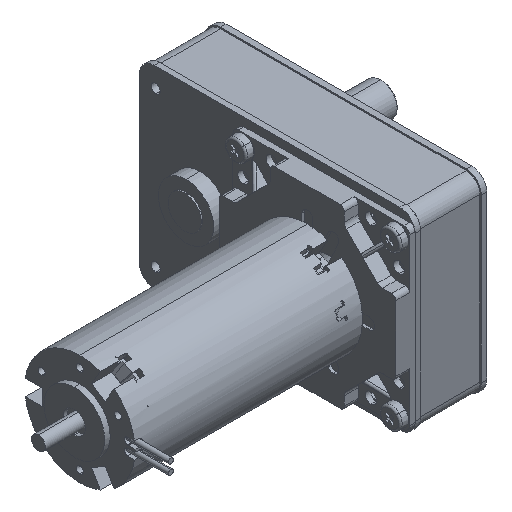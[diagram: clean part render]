
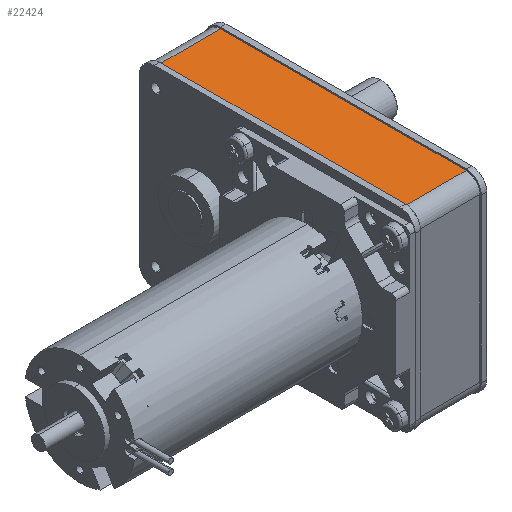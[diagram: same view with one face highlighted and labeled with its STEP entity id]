
A CAD part, isometric view. The second image highlights one B-rep face of the part: STEP entity #22424.
In plain terms, the highlighted planar face has unit normal (0, 0, 1).
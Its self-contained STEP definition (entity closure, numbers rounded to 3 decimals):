
#2350 = EDGE_CURVE ( 'NONE', #18327, #4504, #18022, .T. ) ;
#4201 = CARTESIAN_POINT ( 'NONE',  ( 11., 62.5, 34.5 ) ) ;
#4504 = VERTEX_POINT ( 'NONE', #32819 ) ;
#4623 = CARTESIAN_POINT ( 'NONE',  ( -11., 62.5, 34.5 ) ) ;
#5621 = VERTEX_POINT ( 'NONE', #15432 ) ;
#8496 = LINE ( 'NONE', #17767, #29417 ) ;
#8856 = AXIS2_PLACEMENT_3D ( 'NONE', #9159, #28231, #11870 ) ;
#9112 = VECTOR ( 'NONE', #34039, 1000. ) ;
#9159 = CARTESIAN_POINT ( 'NONE',  ( 11., 62.5, 34.5 ) ) ;
#9958 = LINE ( 'NONE', #12207, #9112 ) ;
#11867 = EDGE_CURVE ( 'NONE', #5621, #4504, #14067, .T. ) ;
#11870 = DIRECTION ( 'NONE',  ( 0., 1., 0. ) ) ;
#12207 = CARTESIAN_POINT ( 'NONE',  ( 11., 62.5, 34.5 ) ) ;
#12338 = DIRECTION ( 'NONE',  ( 0., -1., 0. ) ) ;
#14067 = LINE ( 'NONE', #4623, #28608 ) ;
#14272 = EDGE_CURVE ( 'NONE', #30720, #5621, #9958, .T. ) ;
#14435 = DIRECTION ( 'NONE',  ( -1., 0., 0. ) ) ;
#15432 = CARTESIAN_POINT ( 'NONE',  ( -11., 62.5, 34.5 ) ) ;
#16141 = CARTESIAN_POINT ( 'NONE',  ( 11., -26.5, 34.5 ) ) ;
#17767 = CARTESIAN_POINT ( 'NONE',  ( 11., 62.5, 34.5 ) ) ;
#18022 = LINE ( 'NONE', #30800, #25245 ) ;
#18327 = VERTEX_POINT ( 'NONE', #16141 ) ;
#20479 = ORIENTED_EDGE ( 'NONE', *, *, #14272, .T. ) ;
#22424 = ADVANCED_FACE ( 'NONE', ( #32805 ), #25228, .F. ) ;
#23657 = DIRECTION ( 'NONE',  ( 0., -1., 0. ) ) ;
#24493 = EDGE_CURVE ( 'NONE', #30720, #18327, #8496, .T. ) ;
#24661 = ORIENTED_EDGE ( 'NONE', *, *, #2350, .F. ) ;
#25228 = PLANE ( 'NONE',  #8856 ) ;
#25245 = VECTOR ( 'NONE', #14435, 1000. ) ;
#25325 = EDGE_LOOP ( 'NONE', ( #34653, #24661, #34068, #20479 ) ) ;
#28231 = DIRECTION ( 'NONE',  ( 0., 0., -1. ) ) ;
#28608 = VECTOR ( 'NONE', #23657, 1000. ) ;
#29417 = VECTOR ( 'NONE', #12338, 1000. ) ;
#30720 = VERTEX_POINT ( 'NONE', #4201 ) ;
#30800 = CARTESIAN_POINT ( 'NONE',  ( 11., -26.5, 34.5 ) ) ;
#32805 = FACE_OUTER_BOUND ( 'NONE', #25325, .T. ) ;
#32819 = CARTESIAN_POINT ( 'NONE',  ( -11., -26.5, 34.5 ) ) ;
#34039 = DIRECTION ( 'NONE',  ( -1., 0., 0. ) ) ;
#34068 = ORIENTED_EDGE ( 'NONE', *, *, #24493, .F. ) ;
#34653 = ORIENTED_EDGE ( 'NONE', *, *, #11867, .T. ) ;
